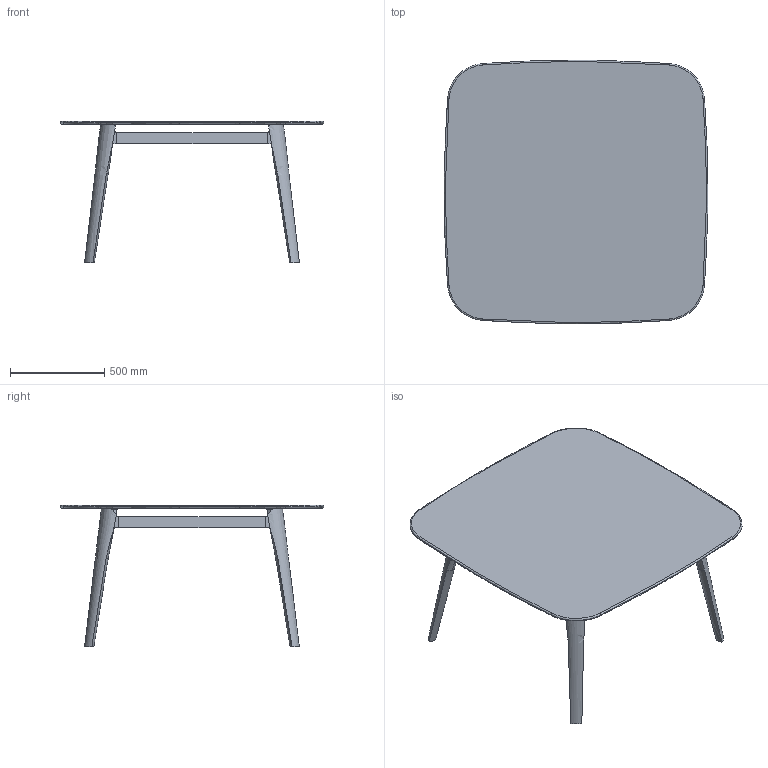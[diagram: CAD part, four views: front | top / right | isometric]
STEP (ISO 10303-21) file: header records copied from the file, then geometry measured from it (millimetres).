
FILE_DESCRIPTION(/* description */ (''),/* implementation_level */ '2;1');
FILE_NAME(/* name */ 'MAGMA_~1',/* time_stamp */ '2018-06-29T17:32:37+02:00',/* author */ (''),/* organization */ (''),/* preprocessor_version */ 'ST-DEVELOPER v16.5',/* originating_system */ '',/* authorisation */ '');
FILE_SCHEMA (('CONFIG_CONTROL_DESIGN'));
Length unit declared in the file: millimetre
Products named in the file (1): Document
Bounding box: 1399.54 x 1399.54 x 750.07 mm (x, y, z)
Volume: 40986747.3 mm3; surface area: 5106966.5 mm2
Topology: 7 solids, 9 shells, 206 faces, 586 edges, 396 vertices
Faces by surface type: bspline 144, plane 62
Entity records: 43740 total; most frequent: CARTESIAN_POINT 40007, ORIENTED_EDGE 1164, EDGE_CURVE 586, B_SPLINE_CURVE_WITH_KNOTS 546, VERTEX_POINT 396, ADVANCED_FACE 206, FACE_OUTER_BOUND 206, EDGE_LOOP 206
